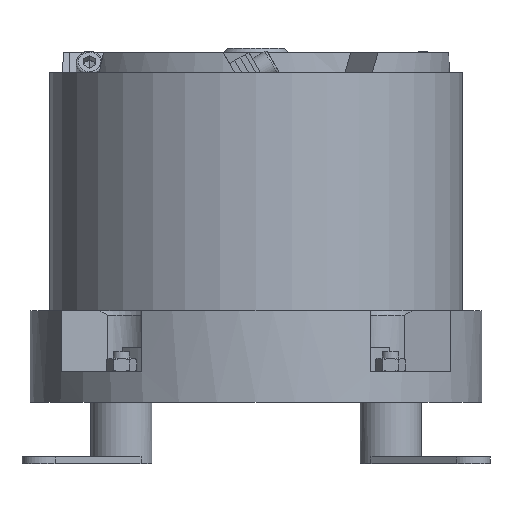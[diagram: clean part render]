
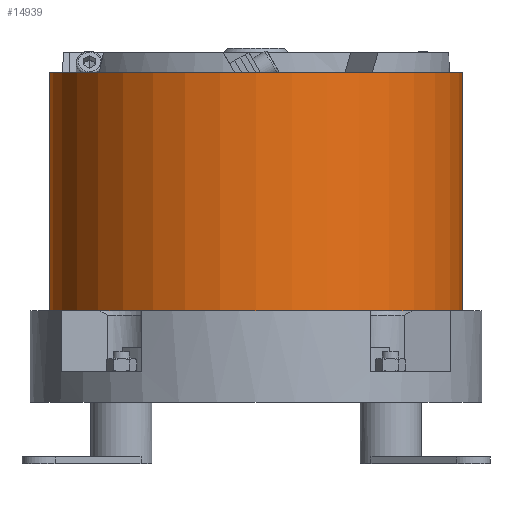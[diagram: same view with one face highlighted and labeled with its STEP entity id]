
A CAD part, front view. The second image highlights one B-rep face of the part: STEP entity #14939.
In plain terms, the highlighted cylindrical face has radius 101.5 mm (diameter 203 mm), a partial arc.
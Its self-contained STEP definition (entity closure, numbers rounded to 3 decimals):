
#222 = AXIS2_PLACEMENT_3D ( 'NONE', #8920, #13967, #7438 ) ;
#264 = EDGE_CURVE ( 'NONE', #5300, #6898, #877, .T. ) ;
#420 = EDGE_LOOP ( 'NONE', ( #5476, #2996, #8388, #14594 ) ) ;
#787 = CARTESIAN_POINT ( 'NONE',  ( -160.914, 28.583, 343. ) ) ;
#877 = CIRCLE ( 'NONE', #11941, 101.5 ) ;
#1030 = CARTESIAN_POINT ( 'NONE',  ( 42.086, 28.583, 343. ) ) ;
#1353 = DIRECTION ( 'NONE',  ( -1., 0., 0. ) ) ;
#1517 = CARTESIAN_POINT ( 'NONE',  ( -59.414, 28.583, 343. ) ) ;
#1898 = EDGE_CURVE ( 'NONE', #6898, #15462, #2248, .T. ) ;
#2248 = LINE ( 'NONE', #12405, #5616 ) ;
#2996 = ORIENTED_EDGE ( 'NONE', *, *, #264, .T. ) ;
#4566 = LINE ( 'NONE', #1030, #11555 ) ;
#4603 = CARTESIAN_POINT ( 'NONE',  ( 42.086, 28.583, 343. ) ) ;
#4660 = VERTEX_POINT ( 'NONE', #10909 ) ;
#5300 = VERTEX_POINT ( 'NONE', #4603 ) ;
#5476 = ORIENTED_EDGE ( 'NONE', *, *, #15858, .F. ) ;
#5616 = VECTOR ( 'NONE', #9663, 1000. ) ;
#6362 = EDGE_CURVE ( 'NONE', #15462, #4660, #8612, .T. ) ;
#6407 = CARTESIAN_POINT ( 'NONE',  ( -59.414, 28.583, 226. ) ) ;
#6898 = VERTEX_POINT ( 'NONE', #787 ) ;
#7170 = CARTESIAN_POINT ( 'NONE',  ( -160.914, 28.583, 226. ) ) ;
#7438 = DIRECTION ( 'NONE',  ( -1., 0., 0. ) ) ;
#7623 = DIRECTION ( 'NONE',  ( 0., 0., -1. ) ) ;
#8388 = ORIENTED_EDGE ( 'NONE', *, *, #1898, .T. ) ;
#8453 = DIRECTION ( 'NONE',  ( 0., 0., -1. ) ) ;
#8612 = CIRCLE ( 'NONE', #10721, 101.5 ) ;
#8880 = DIRECTION ( 'NONE',  ( 0., 0., 1. ) ) ;
#8920 = CARTESIAN_POINT ( 'NONE',  ( -59.414, 28.583, 343. ) ) ;
#9663 = DIRECTION ( 'NONE',  ( 0., 0., -1. ) ) ;
#10154 = FACE_OUTER_BOUND ( 'NONE', #420, .T. ) ;
#10721 = AXIS2_PLACEMENT_3D ( 'NONE', #6407, #8880, #12528 ) ;
#10909 = CARTESIAN_POINT ( 'NONE',  ( 42.086, 28.583, 226. ) ) ;
#11555 = VECTOR ( 'NONE', #8453, 1000. ) ;
#11941 = AXIS2_PLACEMENT_3D ( 'NONE', #1517, #7623, #1353 ) ;
#12405 = CARTESIAN_POINT ( 'NONE',  ( -160.914, 28.583, 343. ) ) ;
#12528 = DIRECTION ( 'NONE',  ( -1., 0., 0. ) ) ;
#13967 = DIRECTION ( 'NONE',  ( 0., 0., -1. ) ) ;
#14594 = ORIENTED_EDGE ( 'NONE', *, *, #6362, .T. ) ;
#14939 = ADVANCED_FACE ( 'NONE', ( #10154 ), #16198, .T. ) ;
#15462 = VERTEX_POINT ( 'NONE', #7170 ) ;
#15858 = EDGE_CURVE ( 'NONE', #5300, #4660, #4566, .T. ) ;
#16198 = CYLINDRICAL_SURFACE ( 'NONE', #222, 101.5 ) ;
